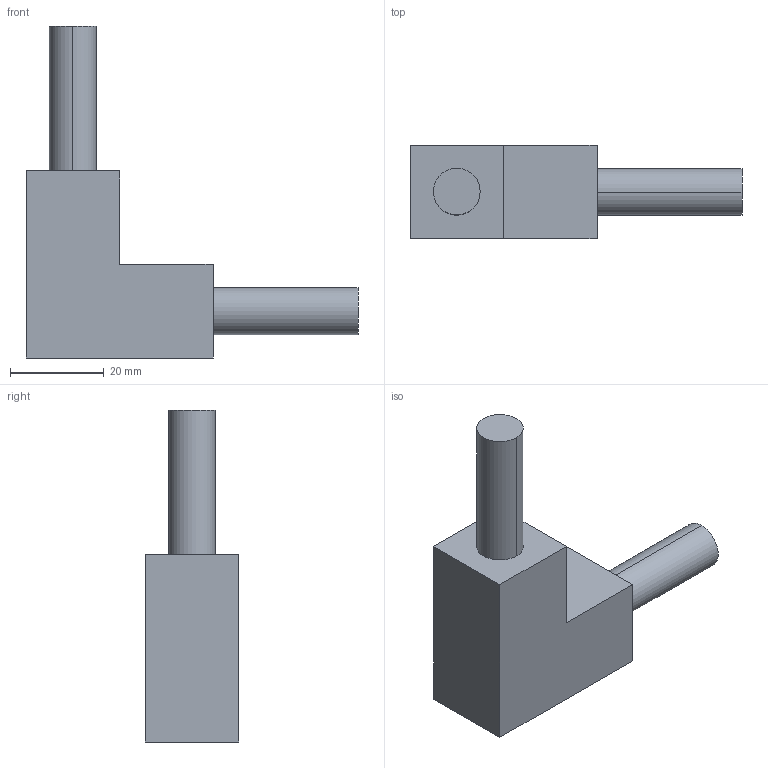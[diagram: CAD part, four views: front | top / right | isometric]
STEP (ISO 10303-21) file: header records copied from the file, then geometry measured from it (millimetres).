
FILE_DESCRIPTION (( 'STEP AP214' ), '1' );
FILE_NAME ('3D_LINESCAPES_DOWN_VERT_ANGLE.STEP', '2018-03-02T15:59:22', ( 'Utente' ), ( '' ), 'SwSTEP 2.0', 'SolidWorks 2016', '' );
FILE_SCHEMA (( 'AUTOMOTIVE_DESIGN' ));
Length unit declared in the file: millimetre
Products named in the file (3): TECDOWN; ANGOLODOWN; 3D_LINESCAPES_DOWN_VERT_ANGLE
Assembly tree (3 placements, depth 2):
  3D_LINESCAPES_DOWN_VERT_ANGLE
    ANGOLODOWN
    TECDOWN  x2
Bounding box: 71 x 20 x 71 mm (x, y, z)
Volume: 28869.5 mm3; surface area: 7861.9 mm2
Topology: 3 solids, 3 shells, 16 faces, 30 edges, 20 vertices
Faces by surface type: plane 12, cylinder 4
Entity records: 430 total; most frequent: DIRECTION 64, CARTESIAN_POINT 58, ORIENTED_EDGE 48, EDGE_CURVE 24, AXIS2_PLACEMENT_3D 22, LINE 20, VECTOR 20, VERTEX_POINT 16
